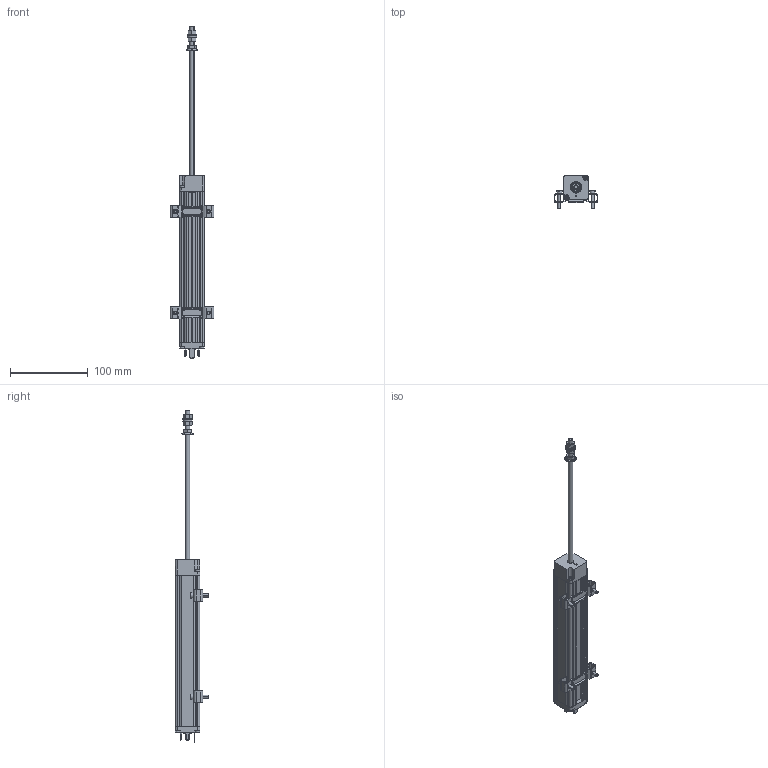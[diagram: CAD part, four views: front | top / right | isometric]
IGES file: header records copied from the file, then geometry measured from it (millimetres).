
Start section: SolidWorks IGES file using analytic representation for surfaces
Global section: file name: E:\Salzinger\I-net_3D\LWH_Essentials\LWH_prts\LWH_150.IGS; native system: SolidWorks 2008; preprocessor: SolidWorks 2008; author: salzinger; date: 081106.124050; units: millimetre
Bounding box: 56 x 43.08 x 426 mm (x, y, z)
Surface area: 63265 mm2 (no closed solid volume)
Topology: 0 solids, 0 shells, 1066 faces, 13290 edges, 13258 vertices
Faces by surface type: bspline 560, revolution 506
